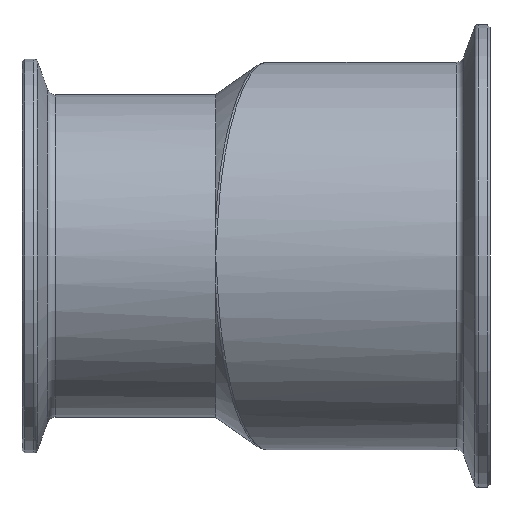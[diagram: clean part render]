
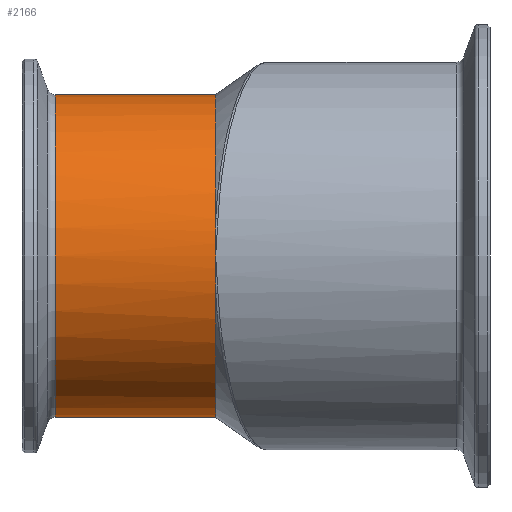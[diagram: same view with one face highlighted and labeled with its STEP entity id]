
A CAD part, front view. The second image highlights one B-rep face of the part: STEP entity #2166.
In plain terms, the highlighted cylindrical face has radius 31.75 mm (diameter 63.5 mm), a partial arc.
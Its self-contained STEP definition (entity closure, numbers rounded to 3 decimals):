
#29 = DIRECTION ( 'NONE',  ( -1., 0., 0. ) ) ;
#44 = CARTESIAN_POINT ( 'NONE',  ( -31.401, -6.35, 31.75 ) ) ;
#47 = CIRCLE ( 'NONE', #1878, 31.75 ) ;
#52 = ORIENTED_EDGE ( 'NONE', *, *, #203, .T. ) ;
#116 = EDGE_CURVE ( 'NONE', #1927, #2662, #508, .T. ) ;
#130 = AXIS2_PLACEMENT_3D ( 'NONE', #2554, #2546, #2532 ) ;
#136 = AXIS2_PLACEMENT_3D ( 'NONE', #693, #486, #2700 ) ;
#203 = EDGE_CURVE ( 'NONE', #1927, #427, #461, .T. ) ;
#213 = CARTESIAN_POINT ( 'NONE',  ( 6.518, -6.35, 0. ) ) ;
#305 = EDGE_CURVE ( 'NONE', #1692, #2370, #2475, .T. ) ;
#332 = CARTESIAN_POINT ( 'NONE',  ( 6.518, -6.35, -31.75 ) ) ;
#350 = EDGE_CURVE ( 'NONE', #1403, #1692, #891, .T. ) ;
#426 = DIRECTION ( 'NONE',  ( 0., 0., 1. ) ) ;
#427 = VERTEX_POINT ( 'NONE', #1756 ) ;
#430 = DIRECTION ( 'NONE',  ( -1., 0., 0. ) ) ;
#451 = CARTESIAN_POINT ( 'NONE',  ( 38.1, -37.244, 7.322 ) ) ;
#461 = CIRCLE ( 'NONE', #2118, 31.75 ) ;
#486 = DIRECTION ( 'NONE',  ( -1., 0., 0. ) ) ;
#508 = LINE ( 'NONE', #783, #1617 ) ;
#519 = ORIENTED_EDGE ( 'NONE', *, *, #350, .T. ) ;
#599 = ORIENTED_EDGE ( 'NONE', *, *, #116, .F. ) ;
#692 = CYLINDRICAL_SURFACE ( 'NONE', #1915, 31.75 ) ;
#693 = CARTESIAN_POINT ( 'NONE',  ( 38.1, -6.35, 0. ) ) ;
#730 = CARTESIAN_POINT ( 'NONE',  ( 6.518, -6.35, 31.75 ) ) ;
#741 = DIRECTION ( 'NONE',  ( -1., 0., 0. ) ) ;
#783 = CARTESIAN_POINT ( 'NONE',  ( -31.401, -6.35, -31.75 ) ) ;
#862 = EDGE_LOOP ( 'NONE', ( #599, #52, #1628, #1103, #519, #2709, #2107 ) ) ;
#891 = CIRCLE ( 'NONE', #136, 31.75 ) ;
#954 = EDGE_CURVE ( 'NONE', #427, #2061, #1442, .T. ) ;
#993 = CIRCLE ( 'NONE', #2051, 31.75 ) ;
#1103 = ORIENTED_EDGE ( 'NONE', *, *, #1905, .T. ) ;
#1255 = CARTESIAN_POINT ( 'NONE',  ( -31.401, -6.35, 0. ) ) ;
#1345 = DIRECTION ( 'NONE',  ( 0., 0., 1. ) ) ;
#1403 = VERTEX_POINT ( 'NONE', #451 ) ;
#1442 = CIRCLE ( 'NONE', #130, 31.75 ) ;
#1569 = DIRECTION ( 'NONE',  ( -1., 0., 0. ) ) ;
#1617 = VECTOR ( 'NONE', #741, 1000. ) ;
#1628 = ORIENTED_EDGE ( 'NONE', *, *, #954, .T. ) ;
#1664 = DIRECTION ( 'NONE',  ( -1., 0., 0. ) ) ;
#1672 = CARTESIAN_POINT ( 'NONE',  ( 38.1, -6.35, 0. ) ) ;
#1692 = VERTEX_POINT ( 'NONE', #2553 ) ;
#1756 = CARTESIAN_POINT ( 'NONE',  ( 38.1, -37.244, -7.322 ) ) ;
#1761 = CARTESIAN_POINT ( 'NONE',  ( 38.1, -6.35, 0. ) ) ;
#1819 = CARTESIAN_POINT ( 'NONE',  ( 38.1, -38.1, 0. ) ) ;
#1865 = DIRECTION ( 'NONE',  ( 0., 0., 1. ) ) ;
#1878 = AXIS2_PLACEMENT_3D ( 'NONE', #1672, #430, #1865 ) ;
#1903 = VECTOR ( 'NONE', #29, 1000. ) ;
#1905 = EDGE_CURVE ( 'NONE', #2061, #1403, #47, .T. ) ;
#1915 = AXIS2_PLACEMENT_3D ( 'NONE', #1255, #2505, #2240 ) ;
#1927 = VERTEX_POINT ( 'NONE', #2072 ) ;
#2051 = AXIS2_PLACEMENT_3D ( 'NONE', #213, #1664, #426 ) ;
#2061 = VERTEX_POINT ( 'NONE', #1819 ) ;
#2072 = CARTESIAN_POINT ( 'NONE',  ( 38.1, -6.35, -31.75 ) ) ;
#2107 = ORIENTED_EDGE ( 'NONE', *, *, #2242, .F. ) ;
#2118 = AXIS2_PLACEMENT_3D ( 'NONE', #1761, #1569, #1345 ) ;
#2166 = ADVANCED_FACE ( 'NONE', ( #2403 ), #692, .T. ) ;
#2240 = DIRECTION ( 'NONE',  ( 0., 0., 1. ) ) ;
#2242 = EDGE_CURVE ( 'NONE', #2662, #2370, #993, .T. ) ;
#2370 = VERTEX_POINT ( 'NONE', #730 ) ;
#2403 = FACE_OUTER_BOUND ( 'NONE', #862, .T. ) ;
#2475 = LINE ( 'NONE', #44, #1903 ) ;
#2505 = DIRECTION ( 'NONE',  ( -1., 0., 0. ) ) ;
#2532 = DIRECTION ( 'NONE',  ( 0., 0., 1. ) ) ;
#2546 = DIRECTION ( 'NONE',  ( -1., 0., 0. ) ) ;
#2553 = CARTESIAN_POINT ( 'NONE',  ( 38.1, -6.35, 31.75 ) ) ;
#2554 = CARTESIAN_POINT ( 'NONE',  ( 38.1, -6.35, 0. ) ) ;
#2662 = VERTEX_POINT ( 'NONE', #332 ) ;
#2700 = DIRECTION ( 'NONE',  ( 0., 0., 1. ) ) ;
#2709 = ORIENTED_EDGE ( 'NONE', *, *, #305, .T. ) ;
